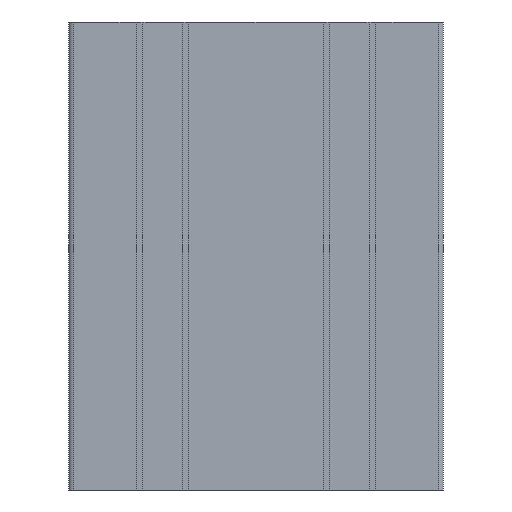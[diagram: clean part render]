
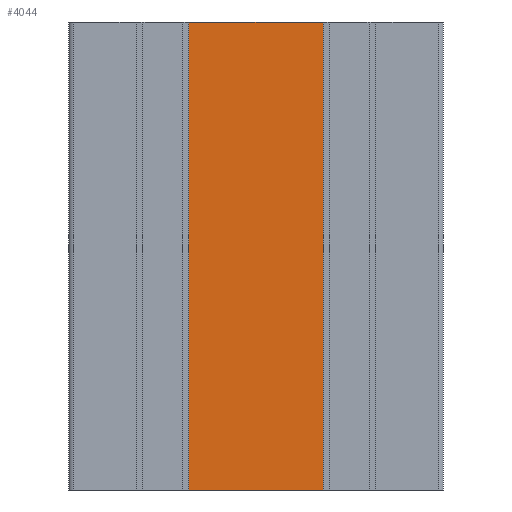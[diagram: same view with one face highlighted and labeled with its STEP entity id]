
A CAD part, front view. The second image highlights one B-rep face of the part: STEP entity #4044.
In plain terms, the highlighted planar face has unit normal (0, -1, 0).
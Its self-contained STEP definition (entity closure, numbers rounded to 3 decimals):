
#304=FACE_OUTER_BOUND('',#502,.T.);
#502=EDGE_LOOP('',(#3175,#3176,#3177,#3178));
#948=LINE('',#6366,#1456);
#949=LINE('',#6369,#1457);
#950=LINE('',#6371,#1458);
#951=LINE('',#6372,#1459);
#1456=VECTOR('',#5220,100.);
#1457=VECTOR('',#5223,28.8);
#1458=VECTOR('',#5224,28.8);
#1459=VECTOR('',#5225,100.);
#1885=VERTEX_POINT('',#6362);
#1886=VERTEX_POINT('',#6364);
#1887=VERTEX_POINT('',#6368);
#1888=VERTEX_POINT('',#6370);
#2432=EDGE_CURVE('',#1885,#1886,#948,.T.);
#2433=EDGE_CURVE('',#1887,#1885,#949,.T.);
#2434=EDGE_CURVE('',#1888,#1886,#950,.T.);
#2435=EDGE_CURVE('',#1887,#1888,#951,.T.);
#3175=ORIENTED_EDGE('',*,*,#2433,.T.);
#3176=ORIENTED_EDGE('',*,*,#2432,.T.);
#3177=ORIENTED_EDGE('',*,*,#2434,.F.);
#3178=ORIENTED_EDGE('',*,*,#2435,.F.);
#3848=PLANE('',#4320);
#4044=ADVANCED_FACE('',(#304),#3848,.T.);
#4320=AXIS2_PLACEMENT_3D('',#6367,#5221,#5222);
#5220=DIRECTION('',(0.,0.,1.));
#5221=DIRECTION('center_axis',(0.,-1.,0.));
#5222=DIRECTION('ref_axis',(1.,0.,0.));
#5223=DIRECTION('',(1.,0.,0.));
#5224=DIRECTION('',(1.,0.,0.));
#5225=DIRECTION('',(0.,0.,1.));
#6362=CARTESIAN_POINT('',(54.622,0.222,0.));
#6364=CARTESIAN_POINT('',(54.622,0.222,100.));
#6366=CARTESIAN_POINT('',(54.622,0.222,0.));
#6367=CARTESIAN_POINT('Origin',(25.822,0.222,0.));
#6368=CARTESIAN_POINT('',(25.822,0.222,0.));
#6369=CARTESIAN_POINT('',(25.822,0.222,0.));
#6370=CARTESIAN_POINT('',(25.822,0.222,100.));
#6371=CARTESIAN_POINT('',(25.822,0.222,100.));
#6372=CARTESIAN_POINT('',(25.822,0.222,0.));
